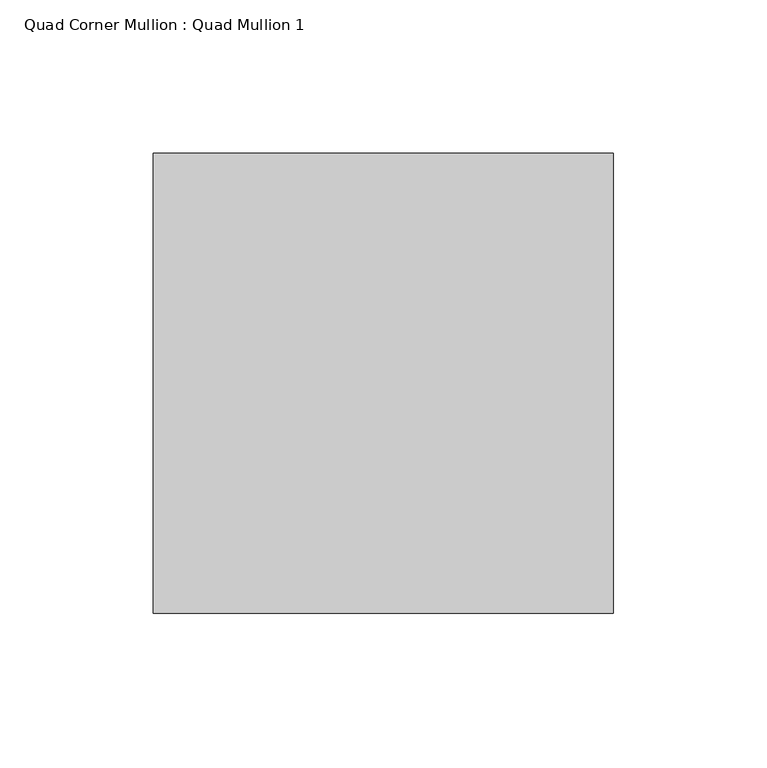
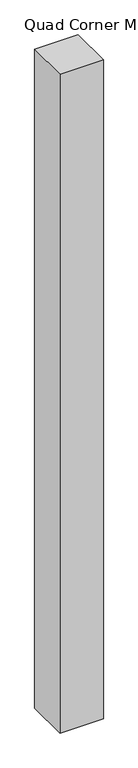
"""IFC4 building model written with IfcOpenShell, lengths in millimetres: member geometry, Quad Corner Mullion : Quad Mullion 1."""

from ifc_helpers import new_model, si_unit, frame, origin, place, context, project, spatial, polyline, outline, extrude, source, transform, mapped, element, save


def quad_corner_mullion_quad_mullion_1_74c77618(model_context):
    return source(origin(), model_context, "Body", "SweptSolid", [
        extrude(outline(polyline([(75.0, -75.0), (-75.0, -75.0), (-75.0, 75.0), (75.0, 75.0), (75.0, -75.0)])), frame((0.0, 0.0, -2400.0), z_axis=(0.0, 0.0, 1.0), x_axis=(1.0, 0.0, 0.0)), (0.0, 0.0, 1.0), 2400.0),
    ])


if __name__ == "__main__":
    model = new_model("IFC4")
    model_context = context("Model", 3, world=origin())
    ifc_project = project(units=[si_unit("LENGTHUNIT", "METRE", prefix="MILLI")], contexts=[model_context])
    site = spatial("IfcSite", under=ifc_project)
    building = spatial("IfcBuilding", under=site)
    placement = place(None, origin())
    quad_corner_mullion_quad_mullion_1_shape = quad_corner_mullion_quad_mullion_1_74c77618(model_context)
    element("IfcMember", 1, ObjectType="Quad Corner Mullion : Quad Mullion 1", at=placement, inside=building, context=model_context, shape_type="MappedRepresentation", body=[
        mapped(quad_corner_mullion_quad_mullion_1_shape, transform((0.0, 0.0, 0.0), x_axis=(1.0, 0.0, 0.0), y_axis=(0.0, 1.0, 0.0), z_axis=(0.0, 0.0, 1.0))),
    ])
    save(model, "model.ifc")
